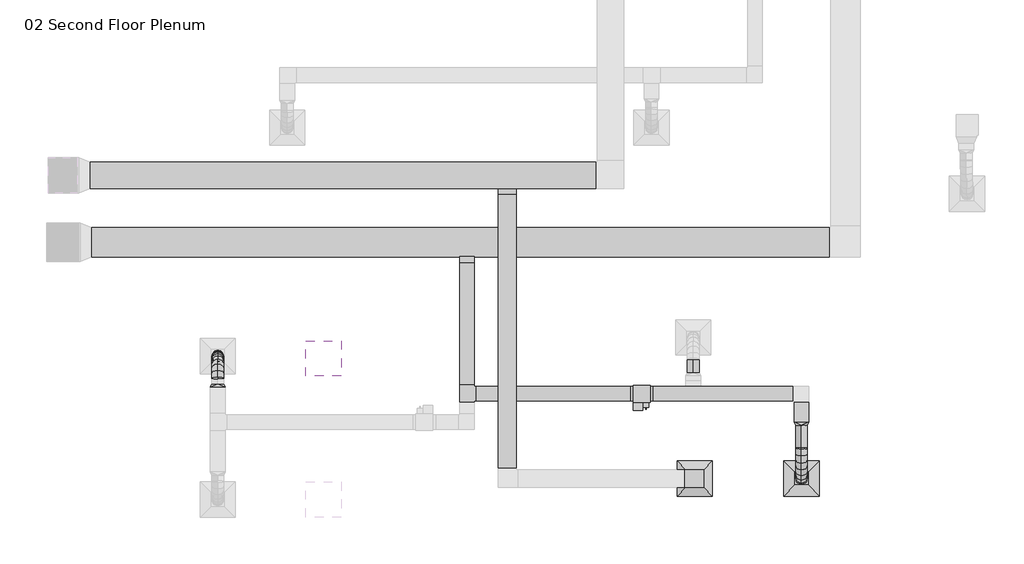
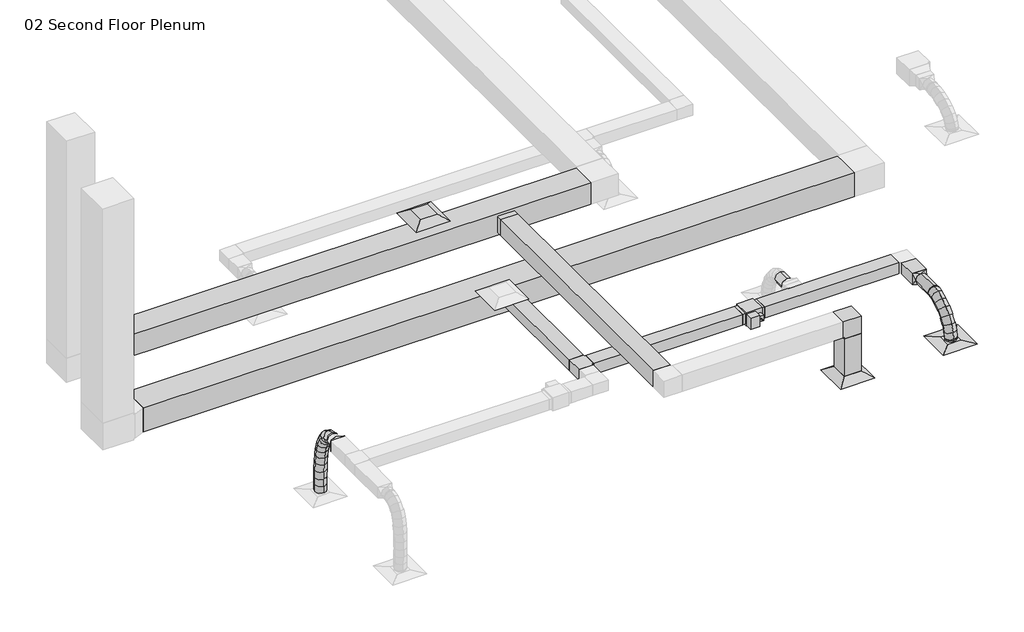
# One storey, part 2 of 12: 12 duct segments, 6 duct fittings, 3 air terminals, 1 proxy.
"""IFC4 building model written with IfcOpenShell, lengths in millimetres."""

from ifc_helpers import new_model, si_unit, point, frame, frame_2d, origin, place, context, project, spatial, polyline, circle_curve, ellipse_curve, trimmed, segment, composite_curve, outline, extrude, transform, mapped, element, save
from ifc_brep_helpers import plane_surface, cylinder_surface, advanced_brep
from components import exhaust_diffuser_hosted_workplane_based_exhaust_diffuser_7695a80a, return_diffuser_d30_returndiffuser_24x24_12x12_connection_ff543d60, supply_diffuser_rectangular_face_round_neck_d30_6390248a, bcn6785_vav_d30_vav1_8c327968, rectangular_elbow_mitered_standard_4ff1c4e8, rectangular_takeoff_standard_ae128e4c, rectangular_takeoff_standard_087f681d, rectangular_tee_standard_b316833c, rectangular_to_round_transition_angle_45_degree_e9430680

model = new_model("IFC4")

# Units and contexts
model_context = context("Model", 3, world=origin())
ifc_project = project(units=[si_unit("LENGTHUNIT", "METRE", prefix="MILLI")], contexts=[model_context])

# Site, building, storey
site = spatial("IfcSite", under=ifc_project)
building = spatial("IfcBuilding", under=site)
storey = spatial("IfcBuildingStorey", under=building, Name="02 Second Floor Plenum", Elevation=3048.0)

# Air terminals
placement = place(None, origin())
exhaust_diffuser_hosted_workplane_based_exhaust_diffuser_shape = exhaust_diffuser_hosted_workplane_based_exhaust_diffuser_7695a80a(model_context)
element("IfcAirTerminal", 1, ObjectType="Exhaust Diffuser - Hosted : Workplane-based Exhaust Diffuser", at=placement, inside=storey, context=model_context, shape_type="MappedRepresentation", body=[
    mapped(exhaust_diffuser_hosted_workplane_based_exhaust_diffuser_shape, transform((-12923.6292617, -3364.9078325, 7010.4), x_axis=(1.0, 0.0, 0.0), y_axis=(0.0, -1.0, 0.0), z_axis=(0.0, 0.0, -1.0))),
])
return_diffuser_d30_returndiffuser_24x24_12x12_connection_shape = return_diffuser_d30_returndiffuser_24x24_12x12_connection_ff543d60(model_context)
element("IfcAirTerminal", 2, ObjectType="Return Diffuser : D30_ReturnDiffuser_24x24 12x12 Connection", at=placement, inside=storey, context=model_context, shape_type="MappedRepresentation", body=[
    mapped(return_diffuser_d30_returndiffuser_24x24_12x12_connection_shape, transform((-6515.2685181, -5438.1828325, 3048.0), x_axis=(1.0, 0.0, 0.0), y_axis=(0.0, 1.0, 0.0), z_axis=(0.0, 0.0, 1.0))),
])
supply_diffuser_rectangular_face_round_neck_d30_shape = supply_diffuser_rectangular_face_round_neck_d30_6390248a(model_context)
element("IfcAirTerminal", 3, ObjectType="Supply Diffuser - Rectangular Face Round Neck : D30_SupplyDiffuser_24x24 8 Neck", at=placement, inside=storey, context=model_context, shape_type="MappedRepresentation", body=[
    mapped(supply_diffuser_rectangular_face_round_neck_d30_shape, transform((-4670.9653729, -5438.1828325, 3048.0), x_axis=(1.0, 0.0, 0.0), y_axis=(0.0, 1.0, 0.0), z_axis=(0.0, 0.0, 1.0))),
])

# Proxy
bcn6785_vav_d30_vav1_shape = bcn6785_vav_d30_vav1_8c327968(model_context)
element("IfcBuildingElementProxy", 4, Name="BCN6785_VAV : D30_VAV1", ObjectType="BCN6785_VAV : D30_VAV1", at=placement, inside=storey, context=model_context, shape_type="MappedRepresentation", body=[
    mapped(bcn6785_vav_d30_vav1_shape, transform((-7579.2653729, -3975.0664214, 3536.95), x_axis=(1.0, 0.0, 0.0), y_axis=(0.0, 1.0, 0.0), z_axis=(0.0, 0.0, 1.0))),
])

# Duct fittings
rectangular_elbow_mitered_standard_shape = rectangular_elbow_mitered_standard_4ff1c4e8(model_context)
element("IfcDuctFitting", 5, ObjectType="Rectangular Elbow - Mitered : Standard", at=placement, inside=storey, context=model_context, shape_type="MappedRepresentation", body=[
    mapped(rectangular_elbow_mitered_standard_shape, transform((-6515.2685181, -5438.1828325, 4038.6), x_axis=(0.0, 0.0, 1.0), y_axis=(-1.0, 0.0, 0.0), z_axis=(0.0, -1.0, 0.0))),
])
rectangular_takeoff_standard_shape = rectangular_takeoff_standard_ae128e4c(model_context)
element("IfcDuctFitting", 6, ObjectType="Rectangular Takeoff : Standard", at=placement, inside=storey, context=model_context, shape_type="MappedRepresentation", body=[
    mapped(rectangular_takeoff_standard_shape, transform((-10449.2481813, -1609.9265825, 3657.6), x_axis=(0.0, -1.0, 0.0), y_axis=(-1.0, 0.0, 0.0), z_axis=(0.0, 0.0, -1.0))),
])
rectangular_takeoff_standard_2_shape = rectangular_takeoff_standard_087f681d(model_context)
element("IfcDuctFitting", 7, ObjectType="Rectangular Takeoff : Standard", at=placement, inside=storey, context=model_context, shape_type="MappedRepresentation", body=[
    mapped(rectangular_takeoff_standard_2_shape, transform((-9752.7160069, -429.9156743, 4038.6), x_axis=(0.0, -1.0, 0.0), y_axis=(-1.0, 0.0, 0.0), z_axis=(0.0, 0.0, -1.0))),
])
rectangular_tee_standard_shape = rectangular_tee_standard_b316833c(model_context)
element("IfcDuctFitting", 8, ObjectType="Rectangular Tee : Standard", at=placement, inside=storey, context=model_context, shape_type="MappedRepresentation", body=[
    mapped(rectangular_tee_standard_shape, transform((-10449.2481813, -3975.0664214, 3657.6), x_axis=(0.0, 1.0, 0.0), y_axis=(-1.0, 0.0, 0.0), z_axis=(0.0, 0.0, 1.0))),
])
rectangular_to_round_transition_angle_45_degree_shape = rectangular_to_round_transition_angle_45_degree_e9430680(model_context)
element("IfcDuctFitting", 9, ObjectType="Rectangular to Round Transition - Angle : 45 Degree", at=placement, inside=storey, context=model_context, shape_type="MappedRepresentation", body=[
    mapped(rectangular_to_round_transition_angle_45_degree_shape, transform((-4670.9653729, -4464.0164214, 3657.6), x_axis=(0.0, -1.0, 0.0), y_axis=(1.0, 0.0, 0.0), z_axis=(0.0, 0.0, 1.0))),
])
element("IfcDuctFitting", 10, ObjectType="Rectangular to Round Transition - Angle : 45 Degree", at=placement, inside=storey, context=model_context, shape_type="MappedRepresentation", body=[
    mapped(rectangular_to_round_transition_angle_45_degree_shape, transform((-14752.2538818, -3867.6465968, 3657.6), x_axis=(0.0, 1.0, 0.0), y_axis=(-1.0, 0.0, 0.0), z_axis=(0.0, 0.0, 1.0))),
])

# Duct segments
element("IfcDuctSegment", 11, ObjectType="Flex - Round", at=placement, inside=storey, context=model_context, shape_type="AdvancedBrep", body=[
    advanced_brep(
    [(-4569.3653729, -4906.3374458, 3657.6), (-4670.9653729, -4906.3374458, 3556.0), (-4772.5653729, -4906.3374458, 3657.6), (-4670.9653729, -4906.3374458, 3759.2), (-4569.3653729, -4922.1172401, 3657.6), (-4670.9653729, -4912.8726384, 3556.0), (-4772.5653729, -4922.1172401, 3657.6), (-4670.9653729, -4931.3618417, 3759.2), (-4569.3653729, -5438.1828325, 3101.975), (-4670.9653729, -5539.7828325, 3101.975), (-4772.5653729, -5438.1828325, 3101.975), (-4670.9653729, -5336.5828325, 3101.975), (-4569.3653729, -5016.5244912, 3640.2763091), (-4670.9653729, -4986.1997618, 3542.5445037), (-4772.5653729, -5016.5244912, 3640.2763091), (-4670.9653729, -5046.8492205, 3738.0081146), (-4569.3653729, -5123.8959344, 3592.29484), (-4670.9653729, -5072.6253672, 3503.9231776), (-4772.5653729, -5123.8959344, 3592.29484), (-4670.9653729, -5175.1665016, 3680.6665023), (-4569.3653729, -5223.2993102, 3519.6399977), (-4670.9653729, -5155.8317056, 3443.1068991), (-4772.5653729, -5223.2993102, 3519.6399977), (-4670.9653729, -5290.7669148, 3596.1730963), (-4569.3653729, -5309.5821532, 3428.2961874), (-4670.9653729, -5229.4979388, 3365.1197327), (-4772.5653729, -5309.5821532, 3428.2961874), (-4670.9653729, -5389.6663677, 3491.4726421), (-4569.3653729, -5377.5919982, 3324.2478143), (-4670.9653729, -5287.0750863, 3277.0323605), (-4772.5653729, -5377.5919982, 3324.2478143), (-4670.9653729, -5468.1089101, 3371.463268), (-4569.3653729, -5422.1763797, 3213.4792834), (-4670.9653729, -5323.7494882, 3185.9159319), (-4772.5653729, -5422.1763797, 3213.4792834), (-4670.9653729, -5520.6032712, 3241.042635), (-4569.3653729, -5438.1828325, 3116.4117043), (-4670.9653729, -5336.5828325, 3108.0909647), (-4772.5653729, -5438.1828325, 3116.4117043), (-4670.9653729, -5539.7828325, 3124.7324439)],
    [
        (0, 1, circle_curve(frame((-4670.9653729, -4906.3374458, 3657.6), z_axis=(0.0, 1.0, 0.0), x_axis=(1.0, 0.0, 0.0)), 101.6)),
        (1, 2, circle_curve(frame((-4670.9653729, -4906.3374458, 3657.6), z_axis=(0.0, 1.0, 0.0), x_axis=(1.0, 0.0, 0.0)), 101.6)),
        (2, 3, circle_curve(frame((-4670.9653729, -4906.3374458, 3657.6), z_axis=(0.0, 1.0, 0.0), x_axis=(1.0, 0.0, 0.0)), 101.6)),
        (3, 0, circle_curve(frame((-4670.9653729, -4906.3374458, 3657.6), z_axis=(0.0, 1.0, 0.0), x_axis=(1.0, 0.0, 0.0)), 101.6)),
        (0, 4),
        (4, 5, ellipse_curve(frame((-4670.9653729, -4922.1172401, 3657.6), z_axis=(0.0, 0.9958859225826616, 0.09061583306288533), x_axis=(0.0, 0.0906158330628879, -0.9958859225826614)), 102.019717, 101.6)),
        (5, 1),
        (5, 6, ellipse_curve(frame((-4670.9653729, -4922.1172401, 3657.6), z_axis=(0.0, 0.9958859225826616, 0.09061583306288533), x_axis=(0.0, 0.0906158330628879, -0.9958859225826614)), 102.019717, 101.6)),
        (6, 2),
        (6, 7, ellipse_curve(frame((-4670.9653729, -4922.1172401, 3657.6), z_axis=(0.0, 0.9958859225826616, 0.09061583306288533), x_axis=(0.0, 0.0906158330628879, -0.9958859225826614)), 102.019717, 101.6)),
        (7, 3),
        (7, 4, ellipse_curve(frame((-4670.9653729, -4922.1172401, 3657.6), z_axis=(0.0, 0.9958859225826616, 0.09061583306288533), x_axis=(0.0, 0.0906158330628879, -0.9958859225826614)), 102.019717, 101.6)),
        (8, 9, circle_curve(frame((-4670.9653729, -5438.1828325, 3101.975), z_axis=(0.0, 0.0, -1.0), x_axis=(1.0, 0.0, 0.0)), 101.6)),
        (9, 10, circle_curve(frame((-4670.9653729, -5438.1828325, 3101.975), z_axis=(0.0, 0.0, -1.0), x_axis=(1.0, 0.0, 0.0)), 101.6)),
        (10, 11, circle_curve(frame((-4670.9653729, -5438.1828325, 3101.975), z_axis=(0.0, 0.0, -1.0), x_axis=(1.0, 0.0, 0.0)), 101.6)),
        (11, 8, circle_curve(frame((-4670.9653729, -5438.1828325, 3101.975), z_axis=(0.0, 0.0, -1.0), x_axis=(1.0, 0.0, 0.0)), 101.6)),
        (4, 12),
        (12, 13, ellipse_curve(frame((-4670.9653729, -5016.5244912, 3640.2763091), z_axis=(0.0, 0.955080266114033, 0.2963472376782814), x_axis=(0.0, 0.29634723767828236, -0.9550802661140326)), 102.3283685, 101.6)),
        (13, 5),
        (13, 14, ellipse_curve(frame((-4670.9653729, -5016.5244912, 3640.2763091), z_axis=(0.0, 0.955080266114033, 0.2963472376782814), x_axis=(0.0, 0.29634723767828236, -0.9550802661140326)), 102.3283685, 101.6)),
        (14, 6),
        (14, 15, ellipse_curve(frame((-4670.9653729, -5016.5244912, 3640.2763091), z_axis=(0.0, 0.955080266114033, 0.2963472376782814), x_axis=(0.0, 0.29634723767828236, -0.9550802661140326)), 102.3283685, 101.6)),
        (15, 7),
        (15, 12, ellipse_curve(frame((-4670.9653729, -5016.5244912, 3640.2763091), z_axis=(0.0, 0.955080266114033, 0.2963472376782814), x_axis=(0.0, 0.29634723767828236, -0.9550802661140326)), 102.3283685, 101.6)),
        (12, 16),
        (16, 17, ellipse_curve(frame((-4670.9653729, -5123.8959344, 3592.29484), z_axis=(0.0, 0.864967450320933, 0.5018279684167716), x_axis=(0.0, 0.5018279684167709, -0.8649674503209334)), 102.167616, 101.6)),
        (17, 13),
        (17, 18, ellipse_curve(frame((-4670.9653729, -5123.8959344, 3592.29484), z_axis=(0.0, 0.864967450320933, 0.5018279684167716), x_axis=(0.0, 0.5018279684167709, -0.8649674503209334)), 102.167616, 101.6)),
        (18, 14),
        (18, 19, ellipse_curve(frame((-4670.9653729, -5123.8959344, 3592.29484), z_axis=(0.0, 0.864967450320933, 0.5018279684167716), x_axis=(0.0, 0.5018279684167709, -0.8649674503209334)), 102.167616, 101.6)),
        (19, 15),
        (19, 16, ellipse_curve(frame((-4670.9653729, -5123.8959344, 3592.29484), z_axis=(0.0, 0.864967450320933, 0.5018279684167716), x_axis=(0.0, 0.5018279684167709, -0.8649674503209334)), 102.167616, 101.6)),
        (16, 20),
        (20, 21, ellipse_curve(frame((-4670.9653729, -5223.2993102, 3519.6399977), z_axis=(0.0, 0.7501373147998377, 0.6612820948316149), x_axis=(0.0, 0.661282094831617, -0.750137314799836)), 102.025452, 101.6)),
        (21, 17),
        (21, 22, ellipse_curve(frame((-4670.9653729, -5223.2993102, 3519.6399977), z_axis=(0.0, 0.7501373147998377, 0.6612820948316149), x_axis=(0.0, 0.661282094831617, -0.750137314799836)), 102.025452, 101.6)),
        (22, 18),
        (22, 23, ellipse_curve(frame((-4670.9653729, -5223.2993102, 3519.6399977), z_axis=(0.0, 0.7501373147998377, 0.6612820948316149), x_axis=(0.0, 0.661282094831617, -0.750137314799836)), 102.025452, 101.6)),
        (23, 19),
        (23, 20, ellipse_curve(frame((-4670.9653729, -5223.2993102, 3519.6399977), z_axis=(0.0, 0.7501373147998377, 0.6612820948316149), x_axis=(0.0, 0.661282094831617, -0.750137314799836)), 102.025452, 101.6)),
        (20, 24),
        (24, 25, ellipse_curve(frame((-4670.9653729, -5309.5821532, 3428.2961874), z_axis=(0.0, 0.6193548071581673, 0.7851112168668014), x_axis=(0.0, 0.7851112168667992, -0.6193548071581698)), 102.0036559, 101.6)),
        (25, 21),
        (25, 26, ellipse_curve(frame((-4670.9653729, -5309.5821532, 3428.2961874), z_axis=(0.0, 0.6193548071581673, 0.7851112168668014), x_axis=(0.0, 0.7851112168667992, -0.6193548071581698)), 102.0036559, 101.6)),
        (26, 22),
        (26, 27, ellipse_curve(frame((-4670.9653729, -5309.5821532, 3428.2961874), z_axis=(0.0, 0.6193548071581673, 0.7851112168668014), x_axis=(0.0, 0.7851112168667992, -0.6193548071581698)), 102.0036559, 101.6)),
        (27, 23),
        (27, 24, ellipse_curve(frame((-4670.9653729, -5309.5821532, 3428.2961874), z_axis=(0.0, 0.6193548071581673, 0.7851112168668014), x_axis=(0.0, 0.7851112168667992, -0.6193548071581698)), 102.0036559, 101.6)),
        (24, 28),
        (28, 29, ellipse_curve(frame((-4670.9653729, -5377.5919982, 3324.2478143), z_axis=(0.0, 0.462483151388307, 0.8866280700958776), x_axis=(0.0, 0.8866280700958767, -0.46248315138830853)), 102.0911867, 101.6)),
        (29, 25),
        (29, 30, ellipse_curve(frame((-4670.9653729, -5377.5919982, 3324.2478143), z_axis=(0.0, 0.462483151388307, 0.8866280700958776), x_axis=(0.0, 0.8866280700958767, -0.46248315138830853)), 102.0911867, 101.6)),
        (30, 26),
        (30, 31, ellipse_curve(frame((-4670.9653729, -5377.5919982, 3324.2478143), z_axis=(0.0, 0.462483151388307, 0.8866280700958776), x_axis=(0.0, 0.8866280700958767, -0.46248315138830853)), 102.0911867, 101.6)),
        (31, 27),
        (31, 28, ellipse_curve(frame((-4670.9653729, -5377.5919982, 3324.2478143), z_axis=(0.0, 0.462483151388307, 0.8866280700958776), x_axis=(0.0, 0.8866280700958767, -0.46248315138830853)), 102.0911867, 101.6)),
        (28, 32),
        (32, 33, ellipse_curve(frame((-4670.9653729, -5422.1763797, 3213.4792834), z_axis=(0.0, 0.26966459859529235, 0.9629543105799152), x_axis=(0.0, 0.9629543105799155, -0.26966459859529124)), 102.2134596, 101.6)),
        (33, 29),
        (33, 34, ellipse_curve(frame((-4670.9653729, -5422.1763797, 3213.4792834), z_axis=(0.0, 0.26966459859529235, 0.9629543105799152), x_axis=(0.0, 0.9629543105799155, -0.26966459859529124)), 102.2134596, 101.6)),
        (34, 30),
        (34, 35, ellipse_curve(frame((-4670.9653729, -5422.1763797, 3213.4792834), z_axis=(0.0, 0.26966459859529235, 0.9629543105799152), x_axis=(0.0, 0.9629543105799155, -0.26966459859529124)), 102.2134596, 101.6)),
        (35, 31),
        (35, 32, ellipse_curve(frame((-4670.9653729, -5422.1763797, 3213.4792834), z_axis=(0.0, 0.26966459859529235, 0.9629543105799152), x_axis=(0.0, 0.9629543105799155, -0.26966459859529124)), 102.2134596, 101.6)),
        (32, 36),
        (36, 37, ellipse_curve(frame((-4670.9653729, -5438.1828325, 3116.4117043), z_axis=(0.0, 0.08162377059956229, 0.9966632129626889), x_axis=(0.0, 0.9966632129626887, -0.08162377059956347)), 101.9401526, 101.6)),
        (37, 33),
        (37, 38, ellipse_curve(frame((-4670.9653729, -5438.1828325, 3116.4117043), z_axis=(0.0, 0.08162377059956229, 0.9966632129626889), x_axis=(0.0, 0.9966632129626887, -0.08162377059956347)), 101.9401526, 101.6)),
        (38, 34),
        (38, 39, ellipse_curve(frame((-4670.9653729, -5438.1828325, 3116.4117043), z_axis=(0.0, 0.08162377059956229, 0.9966632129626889), x_axis=(0.0, 0.9966632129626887, -0.08162377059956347)), 101.9401526, 101.6)),
        (39, 35),
        (39, 36, ellipse_curve(frame((-4670.9653729, -5438.1828325, 3116.4117043), z_axis=(0.0, 0.08162377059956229, 0.9966632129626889), x_axis=(0.0, 0.9966632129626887, -0.08162377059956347)), 101.9401526, 101.6)),
        (36, 8),
        (11, 37),
        (10, 38),
        (9, 39),
    ],
    [
        plane_surface(frame((-4772.5653729, -4906.3374458, 3657.6), z_axis=(0.0, 1.0, 0.0), x_axis=(0.0, 0.0, -1.0))),
        cylinder_surface(frame((-4670.9653729, -4906.3374458, 3657.6), z_axis=(0.0, 1.0, 0.0), x_axis=(1.0, 0.0, 0.0)), 101.6),
        plane_surface(frame((-4670.9653729, -5539.7828325, 3101.975), z_axis=(0.0, 0.0, -1.0), x_axis=(-1.0, 0.0, 0.0))),
        cylinder_surface(frame((-4670.9653729, -4922.1172401, 3657.6), z_axis=(0.0, 0.9835775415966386, 0.18048606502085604), x_axis=(1.0, 0.0, 0.0)), 101.6),
        cylinder_surface(frame((-4670.9653729, -5016.5244912, 3640.2763091), z_axis=(0.0, 0.9129865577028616, 0.4079896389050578), x_axis=(1.0, 0.0, 0.0)), 101.6),
        cylinder_surface(frame((-4670.9653729, -5123.8959344, 3592.29484), z_axis=(0.0, 0.8073372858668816, 0.5900902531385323), x_axis=(1.0, 0.0, 0.0)), 101.6),
        cylinder_surface(frame((-4670.9653729, -5223.2993102, 3519.6399977), z_axis=(0.0, 0.6866811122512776, 0.726958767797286), x_axis=(1.0, 0.0, 0.0)), 101.6),
        cylinder_surface(frame((-4670.9653729, -5309.5821532, 3428.2961874), z_axis=(0.0, 0.5471265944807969, 0.837049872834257), x_axis=(1.0, 0.0, 0.0)), 101.6),
        cylinder_surface(frame((-4670.9653729, -5377.5919982, 3324.2478143), z_axis=(0.0, 0.3733894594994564, 0.92767467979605), x_axis=(1.0, 0.0, 0.0)), 101.6),
        cylinder_surface(frame((-4670.9653729, -5422.1763797, 3213.4792834), z_axis=(0.0, 0.16270281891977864, 0.98667512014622), x_axis=(1.0, 0.0, 0.0)), 101.6),
        cylinder_surface(frame((-4670.9653729, -5438.1828325, 3116.4117043), z_axis=(0.0, 0.0, 1.0), x_axis=(1.0, 0.0, 0.0)), 101.6),
    ],
    [
        (0, [[1, 2, 3, 4]]),
        (1, [[-1, 5, 6, 7]]),
        (1, [[-2, -7, 8, 9]]),
        (1, [[-3, -9, 10, 11]]),
        (1, [[-4, -11, 12, -5]]),
        (2, [[13, 14, 15, 16]]),
        (3, [[-6, 17, 18, 19]]),
        (3, [[-8, -19, 20, 21]]),
        (3, [[-10, -21, 22, 23]]),
        (3, [[-12, -23, 24, -17]]),
        (4, [[-18, 25, 26, 27]]),
        (4, [[-20, -27, 28, 29]]),
        (4, [[-22, -29, 30, 31]]),
        (4, [[-24, -31, 32, -25]]),
        (5, [[-26, 33, 34, 35]]),
        (5, [[-28, -35, 36, 37]]),
        (5, [[-30, -37, 38, 39]]),
        (5, [[-32, -39, 40, -33]]),
        (6, [[-34, 41, 42, 43]]),
        (6, [[-36, -43, 44, 45]]),
        (6, [[-38, -45, 46, 47]]),
        (6, [[-40, -47, 48, -41]]),
        (7, [[-42, 49, 50, 51]]),
        (7, [[-44, -51, 52, 53]]),
        (7, [[-46, -53, 54, 55]]),
        (7, [[-48, -55, 56, -49]]),
        (8, [[-50, 57, 58, 59]]),
        (8, [[-52, -59, 60, 61]]),
        (8, [[-54, -61, 62, 63]]),
        (8, [[-56, -63, 64, -57]]),
        (9, [[-58, 65, 66, 67]]),
        (9, [[-60, -67, 68, 69]]),
        (9, [[-62, -69, 70, 71]]),
        (9, [[-64, -71, 72, -65]]),
        (10, [[-66, 73, -16, 74]]),
        (10, [[-68, -74, -15, 75]]),
        (10, [[-70, -75, -14, 76]]),
        (10, [[-72, -76, -13, -73]]),
    ],
),
])
element("IfcDuctSegment", 12, ObjectType="Flex - Round", at=placement, inside=storey, context=model_context, shape_type="AdvancedBrep", body=[
    advanced_brep(
    [(-14853.8538818, -3715.2465968, 3657.6), (-14752.2538818, -3715.2465968, 3556.0), (-14650.6538818, -3715.2465968, 3657.6), (-14752.2538818, -3715.2465968, 3759.2), (-14853.8538818, -3697.459102, 3657.6), (-14752.2538818, -3708.2414541, 3556.0), (-14650.6538818, -3697.4543198, 3657.6), (-14752.2538818, -3686.6719677, 3759.2), (-14854.0292597, -3326.8275931, 2460.6284557), (-14752.4490336, -3225.2083978, 2460.2866555), (-14650.8292636, -3326.7880719, 2460.6215443), (-14752.4094897, -3428.4072672, 2460.9633445), (-14853.8579662, -3611.6606264, 3639.1775701), (-14752.2566415, -3650.2711676, 3543.5527679), (-14650.6579668, -3611.643812, 3639.1749866), (-14752.2592916, -3573.0332708, 3734.7997888), (-14853.8691655, -3528.2409465, 3587.322716), (-14752.2638952, -3596.2399604, 3509.9662046), (-14650.6691677, -3528.2120206, 3587.3126038), (-14752.2744379, -3460.2130067, 3664.6691153), (-14853.8858988, -3462.8165793, 3507.1522968), (-14752.2759355, -3549.1648098, 3452.280747), (-14650.6859028, -3462.780674, 3507.1336322), (-14752.2958661, -3376.4324434, 3562.0051819), (-14853.9065854, -3413.2172758, 3403.7833405), (-14752.2929731, -3508.3144225, 3367.1452388), (-14650.7065906, -3413.178495, 3403.758683), (-14752.3202028, -3318.0813483, 3440.3967847), (-14853.929644, -3377.2733578, 3282.3345408), (-14752.3135551, -3476.2311209, 3258.74085), (-14650.7296498, -3377.2336356, 3282.3067023), (-14752.3457388, -3278.2758724, 3305.9003931), (-14853.9534935, -3352.814641, 3147.924986), (-14752.3357922, -3453.4259712, 3133.4182484), (-14650.7534995, -3352.7747538, 3147.8962414), (-14752.3712008, -3252.1634236, 3162.4029789), (-14853.9765526, -3337.670615, 3005.6736829), (-14752.3578283, -3438.9537906, 2997.4777428), (-14650.7765584, -3337.6308337, 3005.6459326), (-14752.3952826, -3236.3476581, 3013.8418728), (-14853.99724, -3329.6706267, 2860.6994776), (-14752.3779013, -3431.1913743, 2856.8087699), (-14650.7972453, -3329.6310023, 2860.6745698), (-14752.416584, -3228.1102547, 2864.5652775), (-14854.0139745, -3326.6439637, 2718.12103), (-14752.3943168, -3428.2224138, 2716.9485457), (-14650.8139793, -3326.6044456, 2718.1011324), (-14752.4336369, -3225.0259955, 2719.2736168), (-14854.0251749, -3326.4198841, 2583.0567242), (-14752.4054134, -3428.0004104, 2583.1356919), (-14650.825179, -3326.3803793, 2583.0448759), (-14752.4449404, -3224.799853, 2582.9659082)],
    [
        (0, 1, circle_curve(frame((-14752.2538818, -3715.2465968, 3657.6), z_axis=(0.0, -1.0, 0.0), x_axis=(-1.0, 0.0, 0.0)), 101.6)),
        (1, 2, circle_curve(frame((-14752.2538818, -3715.2465968, 3657.6), z_axis=(0.0, -1.0, 0.0), x_axis=(-1.0, 0.0, 0.0)), 101.6)),
        (2, 3, circle_curve(frame((-14752.2538818, -3715.2465968, 3657.6), z_axis=(0.0, -1.0, 0.0), x_axis=(-1.0, 0.0, 0.0)), 101.6)),
        (3, 0, circle_curve(frame((-14752.2538818, -3715.2465968, 3657.6), z_axis=(0.0, -1.0, 0.0), x_axis=(-1.0, 0.0, 0.0)), 101.6)),
        (0, 4),
        (4, 5, ellipse_curve(frame((-14752.2538818, -3697.4567109, 3657.6), z_axis=(2.3402869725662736e-05, -0.9944133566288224, 0.10555603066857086), x_axis=(-0.00022047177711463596, -0.10555603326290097, -0.9944133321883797)), 102.1707918, 101.6)),
        (5, 1),
        (5, 6, ellipse_curve(frame((-14752.2538818, -3697.4567109, 3657.6), z_axis=(2.3402869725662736e-05, -0.9944133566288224, 0.10555603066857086), x_axis=(-0.00022047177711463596, -0.10555603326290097, -0.9944133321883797)), 102.1707918, 101.6)),
        (6, 2),
        (6, 7, ellipse_curve(frame((-14752.2538818, -3697.4567109, 3657.6), z_axis=(2.3402869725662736e-05, -0.9944133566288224, 0.10555603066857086), x_axis=(-0.00022047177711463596, -0.10555603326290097, -0.9944133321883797)), 102.1707918, 101.6)),
        (7, 3),
        (7, 4, ellipse_curve(frame((-14752.2538818, -3697.4567109, 3657.6), z_axis=(2.3402869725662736e-05, -0.9944133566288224, 0.10555603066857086), x_axis=(-0.00022047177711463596, -0.10555603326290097, -0.9944133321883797)), 102.1707918, 101.6)),
        (8, 9, circle_curve(frame((-14752.4292617, -3326.8078325, 2460.625), z_axis=(-3.3364764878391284e-05, -0.0033301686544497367, -0.9999944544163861), x_axis=(-0.9999999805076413, -0.00019449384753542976, 3.401265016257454e-05)), 101.6)),
        (9, 10, circle_curve(frame((-14752.4292617, -3326.8078325, 2460.625), z_axis=(-3.3364764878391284e-05, -0.0033301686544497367, -0.9999944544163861), x_axis=(-0.9999999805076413, -0.00019449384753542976, 3.401265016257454e-05)), 101.6)),
        (10, 11, circle_curve(frame((-14752.4292617, -3326.8078325, 2460.625), z_axis=(-3.3364764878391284e-05, -0.0033301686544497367, -0.9999944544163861), x_axis=(-0.9999999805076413, -0.00019449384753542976, 3.401265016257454e-05)), 101.6)),
        (11, 8, circle_curve(frame((-14752.4292617, -3326.8078325, 2460.625), z_axis=(-3.3364764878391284e-05, -0.0033301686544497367, -0.9999944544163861), x_axis=(-0.9999999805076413, -0.00019449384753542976, 3.401265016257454e-05)), 101.6)),
        (4, 12),
        (12, 13, ellipse_curve(frame((-14752.2579665, -3611.6522192, 3639.1762784), z_axis=(8.148840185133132e-05, -0.9272359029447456, 0.3744777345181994), x_axis=(-0.0001967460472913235, -0.37447774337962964, -0.9272358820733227)), 103.1274888, 101.6)),
        (13, 5),
        (13, 14, ellipse_curve(frame((-14752.2579665, -3611.6522192, 3639.1762784), z_axis=(8.148840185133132e-05, -0.9272359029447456, 0.3744777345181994), x_axis=(-0.0001967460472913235, -0.37447774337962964, -0.9272358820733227)), 103.1274888, 101.6)),
        (14, 6),
        (14, 15, ellipse_curve(frame((-14752.2579665, -3611.6522192, 3639.1762784), z_axis=(8.148840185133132e-05, -0.9272359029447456, 0.3744777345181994), x_axis=(-0.0001967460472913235, -0.37447774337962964, -0.9272358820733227)), 103.1274888, 101.6)),
        (15, 7),
        (15, 12, ellipse_curve(frame((-14752.2579665, -3611.6522192, 3639.1762784), z_axis=(8.148840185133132e-05, -0.9272359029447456, 0.3744777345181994), x_axis=(-0.0001967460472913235, -0.37447774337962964, -0.9272358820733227)), 103.1274888, 101.6)),
        (12, 16),
        (16, 17, ellipse_curve(frame((-14752.2691666, -3528.2264835, 3587.3176599), z_axis=(0.0001397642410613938, -0.7509821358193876, 0.6603225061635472), x_axis=(-0.00014509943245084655, -0.6603225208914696, -0.7509821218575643)), 103.0003919, 101.6)),
        (17, 13),
        (17, 18, ellipse_curve(frame((-14752.2691666, -3528.2264835, 3587.3176599), z_axis=(0.0001397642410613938, -0.7509821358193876, 0.6603225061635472), x_axis=(-0.00014509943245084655, -0.6603225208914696, -0.7509821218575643)), 103.0003919, 101.6)),
        (18, 14),
        (18, 19, ellipse_curve(frame((-14752.2691666, -3528.2264835, 3587.3176599), z_axis=(0.0001397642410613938, -0.7509821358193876, 0.6603225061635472), x_axis=(-0.00014509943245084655, -0.6603225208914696, -0.7509821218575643)), 103.0003919, 101.6)),
        (19, 15),
        (19, 16, ellipse_curve(frame((-14752.2691666, -3528.2264835, 3587.3176599), z_axis=(0.0001397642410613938, -0.7509821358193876, 0.6603225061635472), x_axis=(-0.00014509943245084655, -0.6603225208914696, -0.7509821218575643)), 103.0003919, 101.6)),
        (16, 20),
        (20, 21, ellipse_curve(frame((-14752.2859008, -3462.7986266, 3507.1429645), z_axis=(0.00017227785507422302, -0.5361930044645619, 0.8440953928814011), x_axis=(-7.914089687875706e-05, -0.8440954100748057, -0.5361929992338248)), 102.3180366, 101.6)),
        (21, 17),
        (21, 22, ellipse_curve(frame((-14752.2859008, -3462.7986266, 3507.1429645), z_axis=(0.00017227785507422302, -0.5361930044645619, 0.8440953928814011), x_axis=(-7.914089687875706e-05, -0.8440954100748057, -0.5361929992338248)), 102.3180366, 101.6)),
        (22, 18),
        (22, 23, ellipse_curve(frame((-14752.2859008, -3462.7986266, 3507.1429645), z_axis=(0.00017227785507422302, -0.5361930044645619, 0.8440953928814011), x_axis=(-7.914089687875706e-05, -0.8440954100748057, -0.5361929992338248)), 102.3180366, 101.6)),
        (23, 19),
        (23, 20, ellipse_curve(frame((-14752.2859008, -3462.7986266, 3507.1429645), z_axis=(0.00017227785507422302, -0.5361930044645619, 0.8440953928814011), x_axis=(-7.914089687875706e-05, -0.8440954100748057, -0.5361929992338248)), 102.3180366, 101.6)),
        (20, 24),
        (24, 25, ellipse_curve(frame((-14752.306588, -3413.1978854, 3403.7710118), z_axis=(0.00018182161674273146, -0.35934217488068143, 0.9332058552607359), x_axis=(-1.0214783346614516e-05, -0.9332058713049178, -0.3593421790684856)), 101.9244968, 101.6)),
        (25, 21),
        (25, 26, ellipse_curve(frame((-14752.306588, -3413.1978854, 3403.7710118), z_axis=(0.00018182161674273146, -0.35934217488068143, 0.9332058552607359), x_axis=(-1.0214783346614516e-05, -0.9332058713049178, -0.3593421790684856)), 101.9244968, 101.6)),
        (26, 22),
        (26, 27, ellipse_curve(frame((-14752.306588, -3413.1978854, 3403.7710118), z_axis=(0.00018182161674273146, -0.35934217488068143, 0.9332058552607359), x_axis=(-1.0214783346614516e-05, -0.9332058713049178, -0.3593421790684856)), 101.9244968, 101.6)),
        (27, 23),
        (27, 24, ellipse_curve(frame((-14752.306588, -3413.1978854, 3403.7710118), z_axis=(0.00018182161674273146, -0.35934217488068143, 0.9332058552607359), x_axis=(-1.0214783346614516e-05, -0.9332058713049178, -0.3593421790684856)), 101.9244968, 101.6)),
        (24, 28),
        (28, 29, ellipse_curve(frame((-14752.3296469, -3377.2534967, 3282.3206216), z_axis=(0.0001785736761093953, -0.23174764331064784, 0.9727759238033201), x_axis=(6.950563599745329e-05, -0.9727759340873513, -0.23174765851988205)), 101.7476092, 101.6)),
        (29, 25),
        (29, 30, ellipse_curve(frame((-14752.3296469, -3377.2534967, 3282.3206216), z_axis=(0.0001785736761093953, -0.23174764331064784, 0.9727759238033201), x_axis=(6.950563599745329e-05, -0.9727759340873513, -0.23174765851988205)), 101.7476092, 101.6)),
        (30, 26),
        (30, 31, ellipse_curve(frame((-14752.3296469, -3377.2534967, 3282.3206216), z_axis=(0.0001785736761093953, -0.23174764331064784, 0.9727759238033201), x_axis=(6.950563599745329e-05, -0.9727759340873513, -0.23174765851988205)), 101.7476092, 101.6)),
        (31, 27),
        (31, 28, ellipse_curve(frame((-14752.3296469, -3377.2534967, 3282.3206216), z_axis=(0.0001785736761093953, -0.23174764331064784, 0.9727759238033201), x_axis=(6.950563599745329e-05, -0.9727759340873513, -0.23174765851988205)), 101.7476092, 101.6)),
        (28, 32),
        (32, 33, ellipse_curve(frame((-14752.3534965, -3352.7946974, 3147.9106137), z_axis=(0.0001679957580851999, -0.14254388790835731, 0.9897884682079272), x_axis=(0.00018102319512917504, -0.9897884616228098, -0.14254391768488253)), 101.6694754, 101.6)),
        (33, 29),
        (33, 34, ellipse_curve(frame((-14752.3534965, -3352.7946974, 3147.9106137), z_axis=(0.0001679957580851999, -0.14254388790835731, 0.9897884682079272), x_axis=(0.00018102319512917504, -0.9897884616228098, -0.14254391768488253)), 101.6694754, 101.6)),
        (34, 30),
        (34, 35, ellipse_curve(frame((-14752.3534965, -3352.7946974, 3147.9106137), z_axis=(0.0001679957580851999, -0.14254388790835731, 0.9897884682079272), x_axis=(0.00018102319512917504, -0.9897884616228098, -0.14254391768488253)), 101.6694754, 101.6)),
        (35, 31),
        (35, 32, ellipse_curve(frame((-14752.3534965, -3352.7946974, 3147.9106137), z_axis=(0.0001679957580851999, -0.14254388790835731, 0.9897884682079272), x_axis=(0.00018102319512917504, -0.9897884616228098, -0.14254391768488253)), 101.6694754, 101.6)),
        (32, 36),
        (36, 37, ellipse_curve(frame((-14752.3765555, -3337.6507244, 3005.6598078), z_axis=(0.0001518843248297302, -0.0805059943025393, 0.9967541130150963), x_axis=(0.0003673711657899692, -0.9967540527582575, -0.08050604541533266)), 101.6329561, 101.6)),
        (37, 33),
        (37, 38, ellipse_curve(frame((-14752.3765555, -3337.6507244, 3005.6598078), z_axis=(0.0001518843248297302, -0.0805059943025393, 0.9967541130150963), x_axis=(0.0003673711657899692, -0.9967540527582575, -0.08050604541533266)), 101.6329561, 101.6)),
        (38, 34),
        (38, 39, ellipse_curve(frame((-14752.3765555, -3337.6507244, 3005.6598078), z_axis=(0.0001518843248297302, -0.0805059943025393, 0.9967541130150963), x_axis=(0.0003673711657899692, -0.9967540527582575, -0.08050604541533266)), 101.6329561, 101.6)),
        (39, 35),
        (39, 36, ellipse_curve(frame((-14752.3765555, -3337.6507244, 3005.6598078), z_axis=(0.0001518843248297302, -0.0805059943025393, 0.9967541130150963), x_axis=(0.0003673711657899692, -0.9967540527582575, -0.08050604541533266)), 101.6329561, 101.6)),
        (36, 40),
        (40, 41, ellipse_curve(frame((-14752.3972426, -3329.6508145, 2860.6870237), z_axis=(0.00012993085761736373, -0.0381662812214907, 0.9992713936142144), x_axis=(0.0007414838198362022, -0.9992711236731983, -0.03816636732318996)), 101.6145979, 101.6)),
        (41, 37),
        (41, 42, ellipse_curve(frame((-14752.3972426, -3329.6508145, 2860.6870237), z_axis=(0.00012993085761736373, -0.0381662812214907, 0.9992713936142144), x_axis=(0.0007414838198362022, -0.9992711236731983, -0.03816636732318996)), 101.6145979, 101.6)),
        (42, 38),
        (42, 43, ellipse_curve(frame((-14752.3972426, -3329.6508145, 2860.6870237), z_axis=(0.00012993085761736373, -0.0381662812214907, 0.9992713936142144), x_axis=(0.0007414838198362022, -0.9992711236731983, -0.03816636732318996)), 101.6145979, 101.6)),
        (43, 39),
        (43, 40, ellipse_curve(frame((-14752.3972426, -3329.6508145, 2860.6870237), z_axis=(0.00012993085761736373, -0.0381662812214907, 0.9992713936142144), x_axis=(0.0007414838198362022, -0.9992711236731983, -0.03816636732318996)), 101.6145979, 101.6)),
        (40, 44),
        (44, 45, ellipse_curve(frame((-14752.4139769, -3326.6242046, 2718.1110812), z_axis=(0.00010014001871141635, -0.011441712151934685, 0.9999345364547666), x_axis=(0.0017591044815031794, -0.9999329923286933, -0.011441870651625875)), 101.604862, 101.6)),
        (45, 41),
        (45, 46, ellipse_curve(frame((-14752.4139769, -3326.6242046, 2718.1110812), z_axis=(0.00010014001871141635, -0.011441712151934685, 0.9999345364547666), x_axis=(0.0017591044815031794, -0.9999329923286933, -0.011441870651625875)), 101.604862, 101.6)),
        (46, 42),
        (46, 47, ellipse_curve(frame((-14752.4139769, -3326.6242046, 2718.1110812), z_axis=(0.00010014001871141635, -0.011441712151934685, 0.9999345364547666), x_axis=(0.0017591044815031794, -0.9999329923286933, -0.011441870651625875)), 101.604862, 101.6)),
        (47, 43),
        (47, 44, ellipse_curve(frame((-14752.4139769, -3326.6242046, 2718.1110812), z_axis=(0.00010014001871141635, -0.011441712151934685, 0.9999345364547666), x_axis=(0.0017591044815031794, -0.9999329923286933, -0.011441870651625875)), 101.604862, 101.6)),
        (44, 48),
        (48, 49, ellipse_curve(frame((-14752.4251769, -3326.4001317, 2583.0508001), z_axis=(5.814572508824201e-05, 0.0008355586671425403, 0.9999996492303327), x_axis=(0.00993322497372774, -0.9999503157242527, 0.0008349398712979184)), 101.6003162, 101.6)),
        (49, 45),
        (49, 50, ellipse_curve(frame((-14752.4251769, -3326.4001317, 2583.0508001), z_axis=(5.814572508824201e-05, 0.0008355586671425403, 0.9999996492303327), x_axis=(0.00993322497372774, -0.9999503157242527, 0.0008349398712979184)), 101.6003162, 101.6)),
        (50, 46),
        (50, 51, ellipse_curve(frame((-14752.4251769, -3326.4001317, 2583.0508001), z_axis=(5.814572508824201e-05, 0.0008355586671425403, 0.9999996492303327), x_axis=(0.00993322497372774, -0.9999503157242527, 0.0008349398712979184)), 101.6003162, 101.6)),
        (51, 47),
        (51, 48, ellipse_curve(frame((-14752.4251769, -3326.4001317, 2583.0508001), z_axis=(5.814572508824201e-05, 0.0008355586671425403, 0.9999996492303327), x_axis=(0.00993322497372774, -0.9999503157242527, 0.0008349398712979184)), 101.6003162, 101.6)),
        (48, 8),
        (11, 49),
        (10, 50),
        (9, 51),
    ],
    [
        plane_surface(frame((-14853.8538818, -3715.2465968, 3657.6), z_axis=(0.0, -1.0, 0.0), x_axis=(0.0, 0.0, 1.0))),
        cylinder_surface(frame((-14752.2538818, -3715.2465968, 3657.6), z_axis=(0.0, -1.0, 0.0), x_axis=(-1.0, 0.0, 0.0)), 101.6),
        plane_surface(frame((-14752.4292617, -3225.2083959, 2460.2866549), z_axis=(-3.336476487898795e-05, -0.0033301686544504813, -0.9999944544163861), x_axis=(0.9999999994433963, -1.1111029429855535e-07, -3.336457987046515e-05))),
        cylinder_surface(frame((-14752.2538818, -3697.4567109, 3657.6), z_axis=(4.654425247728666e-05, -0.977715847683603, 0.20993265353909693), x_axis=(-0.9999999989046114, -4.654425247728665e-05, 4.940628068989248e-06)), 101.6),
        cylinder_surface(frame((-14752.2579665, -3611.6522192, 3639.1762784), z_axis=(0.00011401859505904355, -0.8492881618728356, 0.5279295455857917), x_axis=(-0.9999999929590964, -0.00011419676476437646, 3.226308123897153e-05)), 101.6),
        cylinder_surface(frame((-14752.2691666, -3528.2264835, 3587.3176599), z_axis=(0.00016170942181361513, -0.6322554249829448, 0.7747599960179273), x_axis=(-0.9999999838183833, -0.0001633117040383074, 7.544879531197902e-05)), 101.6),
        cylinder_surface(frame((-14752.2859008, -3462.7986266, 3507.1429645), z_axis=(0.00018042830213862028, -0.43260490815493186, 0.9015835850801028), x_axis=(-0.9999999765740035, -0.00018585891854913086, 0.00011094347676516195)), 101.6),
        cylinder_surface(frame((-14752.306588, -3413.1978854, 3403.7710118), z_axis=(0.00018205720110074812, -0.2837913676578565, 0.9588860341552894), x_axis=(-0.999999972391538, -0.00019412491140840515, 0.00013241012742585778)), 101.6),
        cylinder_surface(frame((-14752.3296469, -3377.2534967, 3282.3206216), z_axis=(0.00017457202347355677, -0.1790315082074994, 0.9838433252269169), x_axis=(-0.9999999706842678, -0.0001963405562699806, 0.00014171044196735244)), 101.6),
        cylinder_surface(frame((-14752.3534965, -3352.7946974, 3147.9106137), z_axis=(0.0001611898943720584, -0.10586145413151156, 0.994380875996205), x_axis=(-0.9999999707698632, -0.00019626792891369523, 0.0001412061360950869)), 101.6),
        cylinder_surface(frame((-14752.3765555, -3337.6507244, 3005.6598078), z_axis=(0.00014248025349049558, -0.05509832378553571, 0.9984809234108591), x_axis=(-0.9999999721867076, -0.0001955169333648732, 0.00013190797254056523)), 101.6),
        cylinder_surface(frame((-14752.3972426, -3329.6508145, 2860.6870237), z_axis=(0.00011734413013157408, -0.021223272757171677, 0.9997747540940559), x_axis=(-0.9999999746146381, -0.0001948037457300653, 0.00011323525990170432)), 101.6),
        cylinder_surface(frame((-14752.4139769, -3326.6242046, 2718.1110812), z_axis=(8.292632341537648e-05, -0.001659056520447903, 0.9999986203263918), x_axis=(-0.9999999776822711, -0.0001944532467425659, 8.260382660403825e-05)), 101.6),
        cylinder_surface(frame((-14752.4251769, -3326.4001317, 2583.0508001), z_axis=(3.336476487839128e-05, 0.003330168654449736, 0.9999944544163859), x_axis=(-0.9999999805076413, -0.00019449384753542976, 3.401265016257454e-05)), 101.6),
    ],
    [
        (0, [[1, 2, 3, 4]]),
        (1, [[-1, 5, 6, 7]]),
        (1, [[-2, -7, 8, 9]]),
        (1, [[-3, -9, 10, 11]]),
        (1, [[-4, -11, 12, -5]]),
        (2, [[13, 14, 15, 16]]),
        (3, [[-6, 17, 18, 19]]),
        (3, [[-8, -19, 20, 21]]),
        (3, [[-10, -21, 22, 23]]),
        (3, [[-12, -23, 24, -17]]),
        (4, [[-18, 25, 26, 27]]),
        (4, [[-20, -27, 28, 29]]),
        (4, [[-22, -29, 30, 31]]),
        (4, [[-24, -31, 32, -25]]),
        (5, [[-26, 33, 34, 35]]),
        (5, [[-28, -35, 36, 37]]),
        (5, [[-30, -37, 38, 39]]),
        (5, [[-32, -39, 40, -33]]),
        (6, [[-34, 41, 42, 43]]),
        (6, [[-36, -43, 44, 45]]),
        (6, [[-38, -45, 46, 47]]),
        (6, [[-40, -47, 48, -41]]),
        (7, [[-42, 49, 50, 51]]),
        (7, [[-44, -51, 52, 53]]),
        (7, [[-46, -53, 54, 55]]),
        (7, [[-48, -55, 56, -49]]),
        (8, [[-50, 57, 58, 59]]),
        (8, [[-52, -59, 60, 61]]),
        (8, [[-54, -61, 62, 63]]),
        (8, [[-56, -63, 64, -57]]),
        (9, [[-58, 65, 66, 67]]),
        (9, [[-60, -67, 68, 69]]),
        (9, [[-62, -69, 70, 71]]),
        (9, [[-64, -71, 72, -65]]),
        (10, [[-66, 73, 74, 75]]),
        (10, [[-68, -75, 76, 77]]),
        (10, [[-70, -77, 78, 79]]),
        (10, [[-72, -79, 80, -73]]),
        (11, [[-74, 81, 82, 83]]),
        (11, [[-76, -83, 84, 85]]),
        (11, [[-78, -85, 86, 87]]),
        (11, [[-80, -87, 88, -81]]),
        (12, [[-82, 89, 90, 91]]),
        (12, [[-84, -91, 92, 93]]),
        (12, [[-86, -93, 94, 95]]),
        (12, [[-88, -95, 96, -89]]),
        (13, [[-90, 97, -16, 98]]),
        (13, [[-92, -98, -15, 99]]),
        (13, [[-94, -99, -14, 100]]),
        (13, [[-96, -100, -13, -97]]),
    ],
),
])
element("IfcDuctSegment", 13, ObjectType="Mitered Elbows / Taps", at=placement, inside=storey, context=model_context, shape_type="SweptSolid", body=[
    extrude(outline(polyline([(-9600.3160069, -5260.3828325), (-9905.1160069, -5260.3828325), (-9905.1160069, -531.5156743), (-9600.3160069, -531.5156743), (-9600.3160069, -5260.3828325)])), frame((0.0, 0.0, 3886.2), z_axis=(0.0, 0.0, 1.0), x_axis=(1.0, 0.0, 0.0)), (0.0, 0.0, 1.0), 304.8),
])
element("IfcDuctSegment", 14, ObjectType="Mitered Elbows / Taps", at=placement, inside=storey, context=model_context, shape_type="SweptSolid", body=[
    extrude(outline(polyline([(-10322.2481813, -3822.6664214), (-10576.2481813, -3822.6664214), (-10576.2481813, -1711.5265825), (-10322.2481813, -1711.5265825), (-10322.2481813, -3822.6664214)])), frame((0.0, 0.0, 3556.0), z_axis=(0.0, 0.0, 1.0), x_axis=(1.0, 0.0, 0.0)), (0.0, 0.0, 1.0), 203.2),
])
element("IfcDuctSegment", 15, ObjectType="Mitered Elbows / Tees", at=placement, inside=storey, context=model_context, shape_type="SweptSolid", body=[
    extrude(outline(polyline([(-4187.9142705, -1101.9265825), (-4187.9142705, -1609.9265825), (-16940.1911882, -1609.9265825), (-16940.1911882, -1101.9265825), (-4187.9142705, -1101.9265825)])), frame((0.0, 0.0, 3276.6), z_axis=(0.0, 0.0, 1.0), x_axis=(1.0, 0.0, 0.0)), (0.0, 0.0, 1.0), 457.2),
])
element("IfcDuctSegment", 16, ObjectType="Mitered Elbows / Tees", at=placement, inside=storey, context=model_context, shape_type="SweptSolid", body=[
    extrude(outline(polyline([(-10296.8481813, -4102.0664214), (-10296.8481813, -3848.0664214), (-7630.0653729, -3848.0664214), (-7630.0653729, -4102.0664214), (-10296.8481813, -4102.0664214)])), frame((0.0, 0.0, 3556.0), z_axis=(0.0, 0.0, 1.0), x_axis=(1.0, 0.0, 0.0)), (0.0, 0.0, 1.0), 203.2),
])
element("IfcDuctSegment", 17, ObjectType="Mitered Elbows / Tees", at=placement, inside=storey, context=model_context, shape_type="SweptSolid", body=[
    extrude(outline(polyline([(-4823.3653729, -3848.0664214), (-4823.3653729, -4102.0664214), (-7236.3653729, -4102.0664214), (-7236.3653729, -3848.0664214), (-4823.3653729, -3848.0664214)])), frame((0.0, 0.0, 3556.0), z_axis=(0.0, 0.0, 1.0), x_axis=(1.0, 0.0, 0.0)), (0.0, 0.0, 1.0), 203.2),
])
element("IfcDuctSegment", 18, ObjectType="Mitered Elbows / Tees", at=placement, inside=storey, context=model_context, shape_type="SweptSolid", body=[
    extrude(outline(polyline([(-4797.9653729, -4127.4664214), (-4543.9653729, -4127.4664214), (-4543.9653729, -4464.0164214), (-4797.9653729, -4464.0164214), (-4797.9653729, -4127.4664214)])), frame((0.0, 0.0, 3556.0), z_axis=(0.0, 0.0, 1.0), x_axis=(1.0, 0.0, 0.0)), (0.0, 0.0, 1.0), 203.2),
])
element("IfcDuctSegment", 19, ObjectType="Mitered Elbows / Tees", at=placement, inside=storey, context=model_context, shape_type="SweptSolid", body=[
    extrude(outline(polyline([(-8226.5142705, 27.2843257), (-8226.5142705, -429.9156743), (-16965.5911882, -429.9156743), (-16965.5911882, 27.2843257), (-8226.5142705, 27.2843257)])), frame((0.0, 0.0, 3835.4), z_axis=(0.0, 0.0, 1.0), x_axis=(1.0, 0.0, 0.0)), (0.0, 0.0, 1.0), 406.4),
])
element("IfcDuctSegment", 20, ObjectType="Mitered Elbows / Tees", at=placement, inside=storey, context=model_context, shape_type="SweptSolid", body=[
    extrude(outline(polyline([(-6667.6685181, -5285.7828325), (-6362.8685181, -5285.7828325), (-6362.8685181, -5590.5828325), (-6667.6685181, -5590.5828325), (-6667.6685181, -5285.7828325)])), frame((0.0, 0.0, 3149.6), z_axis=(0.0, 0.0, 1.0), x_axis=(1.0, 0.0, 0.0)), (0.0, 0.0, 1.0), 711.2),
])
element("IfcDuctSegment", 21, ObjectType="Taps", at=placement, inside=storey, context=model_context, shape_type="SweptSolid", body=[
    extrude(outline(composite_curve([segment(trimmed(circle_curve(frame_2d((3657.6, -4670.9653729)), 101.6), [point((3657.6, -4772.5653729))], [point((3556.0, -4670.9653729))], False, "CARTESIAN"), True, "CONTINUOUS"), segment(trimmed(circle_curve(frame_2d((3657.6, -4670.9653729)), 101.6), [point((3556.0, -4670.9653729))], [point((3657.6, -4569.3653729))], False, "CARTESIAN"), True, "CONTINUOUS"), segment(trimmed(circle_curve(frame_2d((3657.6, -4670.9653729)), 101.6), [point((3657.6, -4569.3653729))], [point((3759.2, -4670.9653729))], False, "CARTESIAN"), True, "CONTINUOUS"), segment(trimmed(circle_curve(frame_2d((3657.6, -4670.9653729)), 101.6), [point((3759.2, -4670.9653729))], [point((3657.6, -4772.5653729))], False, "CARTESIAN"), True, "CONTINUOUS")], self_intersect=False)), frame((0.0, -4906.3374458, 0.0), z_axis=(0.0, 1.0, 0.0), x_axis=(0.0, 0.0, 1.0)), (0.0, 0.0, 1.0), 381.0),
])
element("IfcDuctSegment", 22, ObjectType="Taps", at=placement, inside=storey, context=model_context, shape_type="SweptSolid", body=[
    extrude(outline(composite_curve([segment(trimmed(circle_curve(frame_2d((3657.6, -6540.6685181)), 101.6), [point((3657.6, -6439.0685181))], [point((3759.2, -6540.6685181))], False, "CARTESIAN"), True, "CONTINUOUS"), segment(trimmed(circle_curve(frame_2d((3657.6, -6540.6685181)), 101.6), [point((3759.2, -6540.6685181))], [point((3657.6, -6642.2685181))], False, "CARTESIAN"), True, "CONTINUOUS"), segment(trimmed(circle_curve(frame_2d((3657.6, -6540.6685181)), 101.6), [point((3657.6, -6642.2685181))], [point((3556.0, -6540.6685181))], False, "CARTESIAN"), True, "CONTINUOUS"), segment(trimmed(circle_curve(frame_2d((3657.6, -6540.6685181)), 101.6), [point((3556.0, -6540.6685181))], [point((3657.6, -6439.0685181))], False, "CARTESIAN"), True, "CONTINUOUS")], self_intersect=False)), frame((0.0, -3608.9453969, 0.0), z_axis=(0.0, 1.0, 0.0), x_axis=(0.0, 0.0, 1.0)), (0.0, 0.0, 1.0), 218.0789755),
])

save(model, "model.ifc")
